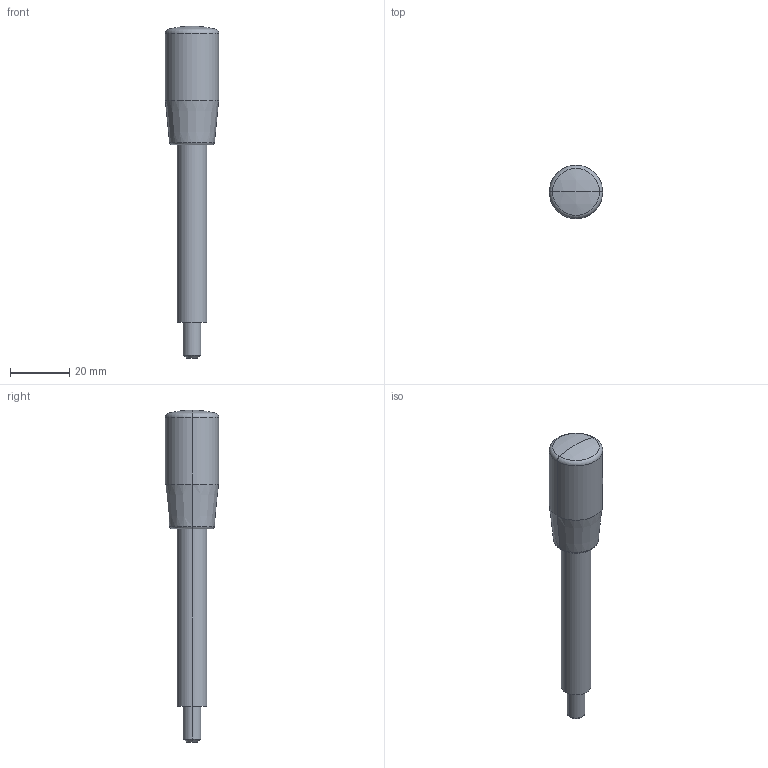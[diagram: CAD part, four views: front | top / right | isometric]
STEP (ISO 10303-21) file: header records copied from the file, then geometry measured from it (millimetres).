
FILE_DESCRIPTION (( 'STEP AP203' ), '1' );
FILE_NAME ('pgl6x100-sus.STEP', '2021-10-26T05:03:09', ( '' ), ( '' ), 'SwSTEP 2.0', 'SolidWorks 2020', '' );
FILE_SCHEMA (( 'CONFIG_CONTROL_DESIGN' ));
Length unit declared in the file: millimetre
Products named in the file (1): pgl6x100-sus
Bounding box: 18 x 18 x 112 mm (x, y, z)
Volume: 14428.4 mm3; surface area: 4621.2 mm2
Topology: 1 solids, 1 shells, 19 faces, 35 edges, 20 vertices
Faces by surface type: cylinder 6, torus 4, cone 4, plane 3, sphere 2
Entity records: 551 total; most frequent: DIRECTION 100, CARTESIAN_POINT 75, ORIENTED_EDGE 70, AXIS2_PLACEMENT_3D 45, EDGE_CURVE 35, CIRCLE 25, EDGE_LOOP 21, VERTEX_POINT 20
